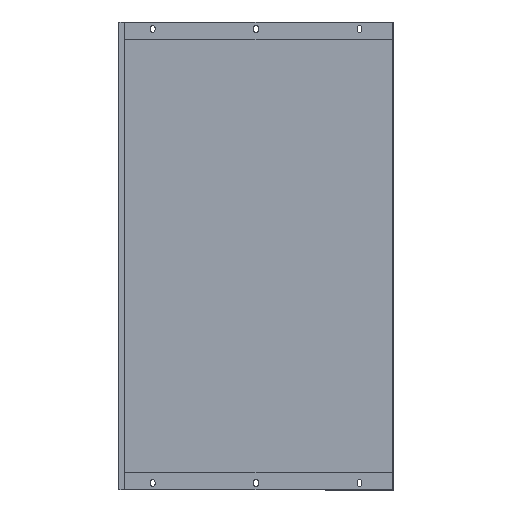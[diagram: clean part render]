
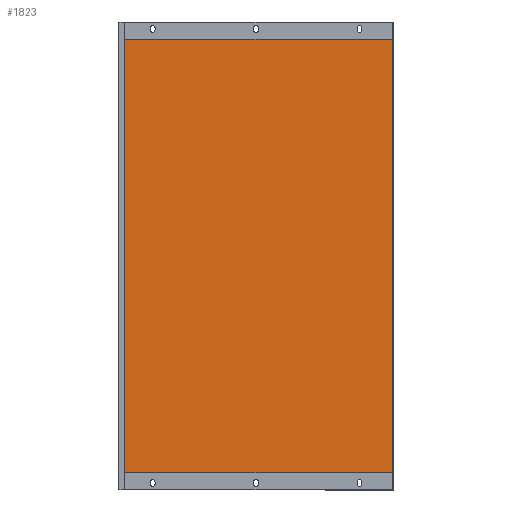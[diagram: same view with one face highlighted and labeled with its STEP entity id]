
A CAD part, front view. The second image highlights one B-rep face of the part: STEP entity #1823.
In plain terms, the highlighted planar face has unit normal (0, -1, 0).
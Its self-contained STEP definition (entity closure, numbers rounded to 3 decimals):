
#54 = EDGE_CURVE ( 'NONE', #1348, #1388, #1633, .T. ) ;
#55 = EDGE_CURVE ( 'NONE', #752, #1104, #1452, .T. ) ;
#112 = PLANE ( 'NONE',  #1425 ) ;
#186 = DIRECTION ( 'NONE',  ( 0., 0., -1. ) ) ;
#259 = CARTESIAN_POINT ( 'NONE',  ( 388.6, 61.1, 25. ) ) ;
#279 = EDGE_CURVE ( 'NONE', #1104, #1388, #1847, .T. ) ;
#334 = LINE ( 'NONE', #1637, #1630 ) ;
#392 = FACE_OUTER_BOUND ( 'NONE', #696, .T. ) ;
#533 = CARTESIAN_POINT ( 'NONE',  ( -8., 61.1, 679. ) ) ;
#577 = CARTESIAN_POINT ( 'NONE',  ( 0., 61.1, 25. ) ) ;
#592 = DIRECTION ( 'NONE',  ( 0., 0., -1. ) ) ;
#692 = VECTOR ( 'NONE', #1267, 1000. ) ;
#696 = EDGE_LOOP ( 'NONE', ( #1848, #1449, #1023, #1011 ) ) ;
#752 = VERTEX_POINT ( 'NONE', #841 ) ;
#827 = EDGE_CURVE ( 'NONE', #1348, #752, #334, .T. ) ;
#832 = VECTOR ( 'NONE', #186, 1000. ) ;
#841 = CARTESIAN_POINT ( 'NONE',  ( -6.6, 61.1, 654. ) ) ;
#932 = DIRECTION ( 'NONE',  ( -1., 0., 0. ) ) ;
#978 = DIRECTION ( 'NONE',  ( 0., 0., 1. ) ) ;
#988 = VECTOR ( 'NONE', #592, 1000. ) ;
#1011 = ORIENTED_EDGE ( 'NONE', *, *, #54, .F. ) ;
#1023 = ORIENTED_EDGE ( 'NONE', *, *, #279, .T. ) ;
#1104 = VERTEX_POINT ( 'NONE', #1235 ) ;
#1209 = CARTESIAN_POINT ( 'NONE',  ( -6.6, 61.1, 679. ) ) ;
#1218 = CARTESIAN_POINT ( 'NONE',  ( 388.6, 61.1, 654. ) ) ;
#1235 = CARTESIAN_POINT ( 'NONE',  ( -6.6, 61.1, 25. ) ) ;
#1267 = DIRECTION ( 'NONE',  ( 1., 0., 0. ) ) ;
#1275 = DIRECTION ( 'NONE',  ( 0., 1., 0. ) ) ;
#1348 = VERTEX_POINT ( 'NONE', #1218 ) ;
#1388 = VERTEX_POINT ( 'NONE', #259 ) ;
#1425 = AXIS2_PLACEMENT_3D ( 'NONE', #533, #1275, #978 ) ;
#1449 = ORIENTED_EDGE ( 'NONE', *, *, #55, .T. ) ;
#1452 = LINE ( 'NONE', #1209, #988 ) ;
#1463 = CARTESIAN_POINT ( 'NONE',  ( 388.6, 61.1, 679. ) ) ;
#1630 = VECTOR ( 'NONE', #932, 1000. ) ;
#1633 = LINE ( 'NONE', #1463, #832 ) ;
#1637 = CARTESIAN_POINT ( 'NONE',  ( 0., 61.1, 654. ) ) ;
#1823 = ADVANCED_FACE ( 'NONE', ( #392 ), #112, .F. ) ;
#1847 = LINE ( 'NONE', #577, #692 ) ;
#1848 = ORIENTED_EDGE ( 'NONE', *, *, #827, .T. ) ;
